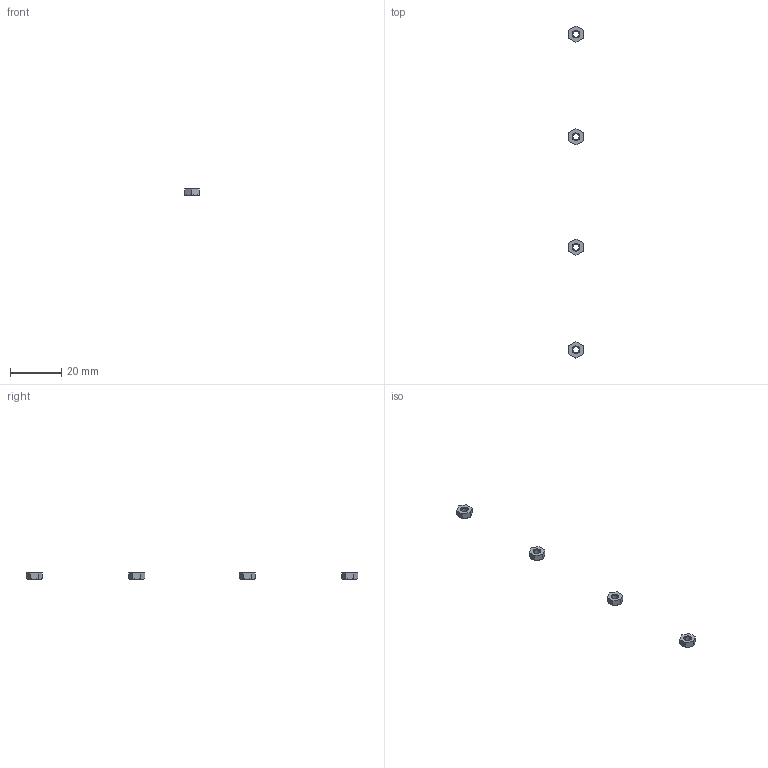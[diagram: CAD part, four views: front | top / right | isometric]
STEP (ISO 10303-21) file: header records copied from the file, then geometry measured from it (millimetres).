
FILE_DESCRIPTION(/* description */ (''),/* implementation_level */ '2;1');
FILE_NAME(/* name */ '9.electronics#9.3#LBNR3',/* time_stamp */ '2014-12-01T20:18:48+01:00',/* author */ (''),/* organization */ (''),/* preprocessor_version */ 'ST-DEVELOPER v14',/* originating_system */ '',/* authorisation */ '');
FILE_SCHEMA (('AUTOMOTIVE_DESIGN'));
Length unit declared in the file: millimetre
Products named in the file (1): Document
Bounding box: 5.5 x 129.35 x 2.4 mm (x, y, z)
Volume: 202.7 mm3; surface area: 414.6 mm2
Topology: 4 solids, 4 shells, 88 faces, 192 edges, 112 vertices
Faces by surface type: bspline 56, plane 32
Entity records: 5359 total; most frequent: CARTESIAN_POINT 2897, ORIENTED_EDGE 384, PCURVE 384, DEFINITIONAL_REPRESENTATION 384, B_SPLINE_CURVE_WITH_KNOTS 368, SURFACE_CURVE 192, EDGE_CURVE 192, VERTEX_POINT 112
